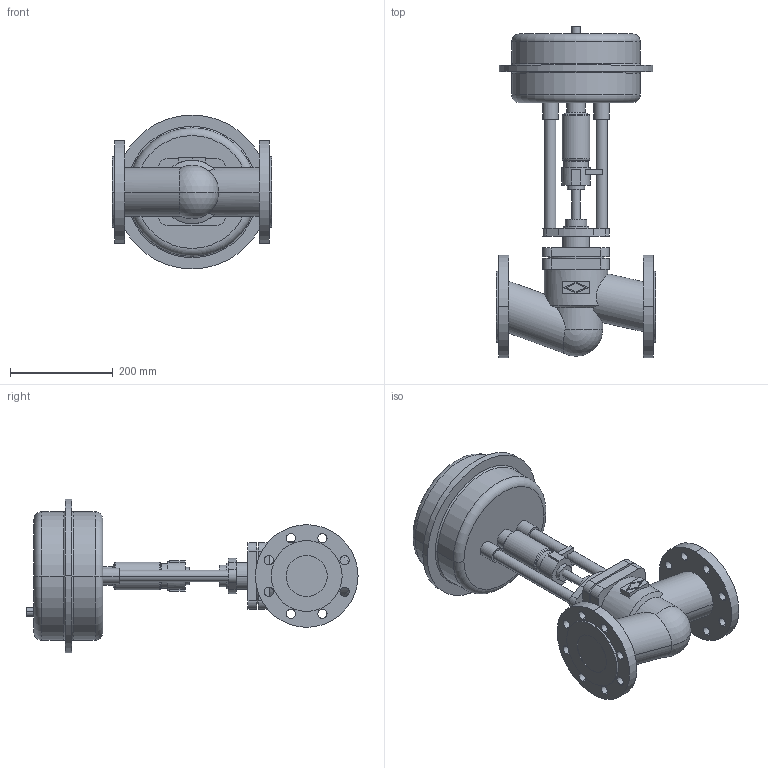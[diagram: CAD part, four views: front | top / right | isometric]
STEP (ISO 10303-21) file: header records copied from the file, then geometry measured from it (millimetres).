
FILE_DESCRIPTION(('OneSpaceDesigner STEP Export'),'2;1');
FILE_NAME('c000001472.stp','2005-02-15T 9:24:38',(''),(''),'OneSpace Designer STEP processor (Jan. 2003) for AP203(Solid Model)','OneSpace Designer 12.01D 09-Jul-2004 (C) CoCreate Software GmbH','');
FILE_SCHEMA(('CONFIG_CONTROL_DESIGN'));
Length unit declared in the file: millimetre
Products named in the file (2): 1; 2
Bounding box: 310 x 647.1 x 300 mm (x, y, z)
Volume: 12249907.6 mm3; surface area: 633481.3 mm2
Topology: 2 solids, 2 shells, 197 faces, 482 edges, 314 vertices
Faces by surface type: cylinder 100, plane 73, torus 16, cone 6, sphere 2
Entity records: 5579 total; most frequent: CARTESIAN_POINT 1126, ORIENTED_EDGE 960, DIRECTION 791, EDGE_CURVE 480, VERTEX_POINT 314, AXIS2_PLACEMENT_3D 288, EDGE_LOOP 256, VECTOR 215
